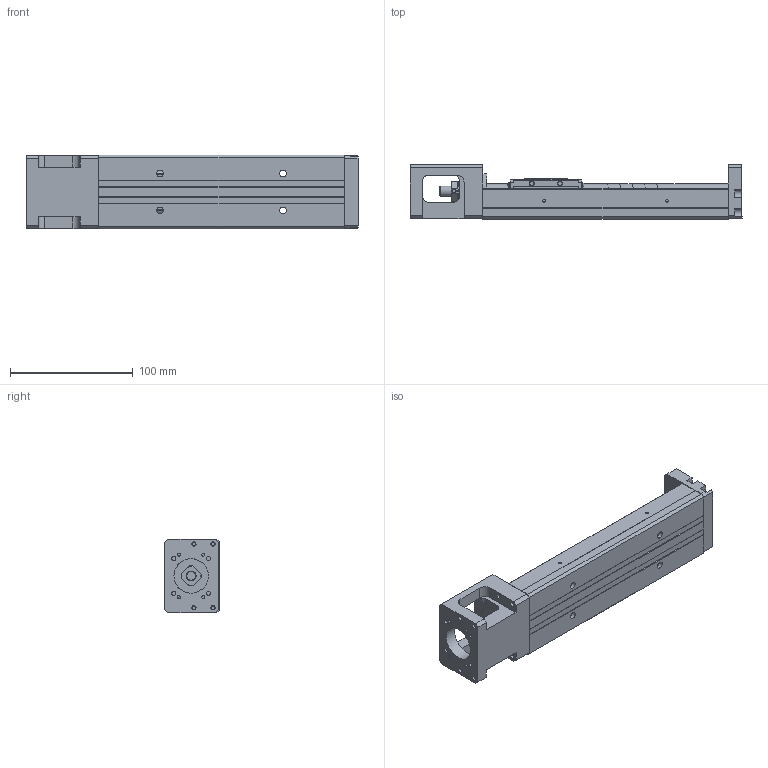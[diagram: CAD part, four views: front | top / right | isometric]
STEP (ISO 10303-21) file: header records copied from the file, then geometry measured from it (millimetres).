
FILE_DESCRIPTION(/* description */ (''),/* implementation_level */ '2;1');
FILE_NAME(/* name */ 'KP33S-200-D.stp',/* time_stamp */ '2020-06-04T17:49:17+08:00',/* author */ (''),/* organization */ (''),/* preprocessor_version */ 'ST-DEVELOPER v14',/* originating_system */ 'SIEMENS PLM Software NX 8.0',/* authorisation */ '');
FILE_SCHEMA (('AUTOMOTIVE_DESIGN { 1 0 10303 214 3 1 1 1 }'));
Length unit declared in the file: millimetre
Products named in the file (1): model1
Bounding box: 270 x 44.45 x 60 mm (x, y, z)
Volume: 338777.6 mm3; surface area: 97043.5 mm2
Topology: 5 solids, 10 shells, 594 faces, 1523 edges, 1000 vertices
Faces by surface type: plane 349, cylinder 160, bspline 31, cone 22, extrusion 21, torus 9, revolution 2
Full cylindrical faces by diameter (mm): 1.6 x2, 1.65 x4, 2.15 x2, 2.42 x4, 2.45 x4, 2.5 x8, 3.2 x4, 3.3 x4, 3.4 x4, 3.5 x10, 3.969 x1, 4 x4, 4.001 x1, 4.135 x2, 5.5 x4, 6 x4, 7.6 x1, 8 x5, 9.5 x4, 10.72 x3, 11.8 x2, 12 x6, 12.8 x1, 13 x2, 14 x1, 17.38 x3, 21.5 x1, 22 x2, 28 x1
Entity records: 32670 total; most frequent: CARTESIAN_POINT 15934, DIRECTION 2692, ORIENTED_EDGE 2666, EDGE_CURVE 1333, VERTEX_POINT 937, AXIS2_PLACEMENT_3D 933, EDGE_LOOP 826, VECTOR 824
